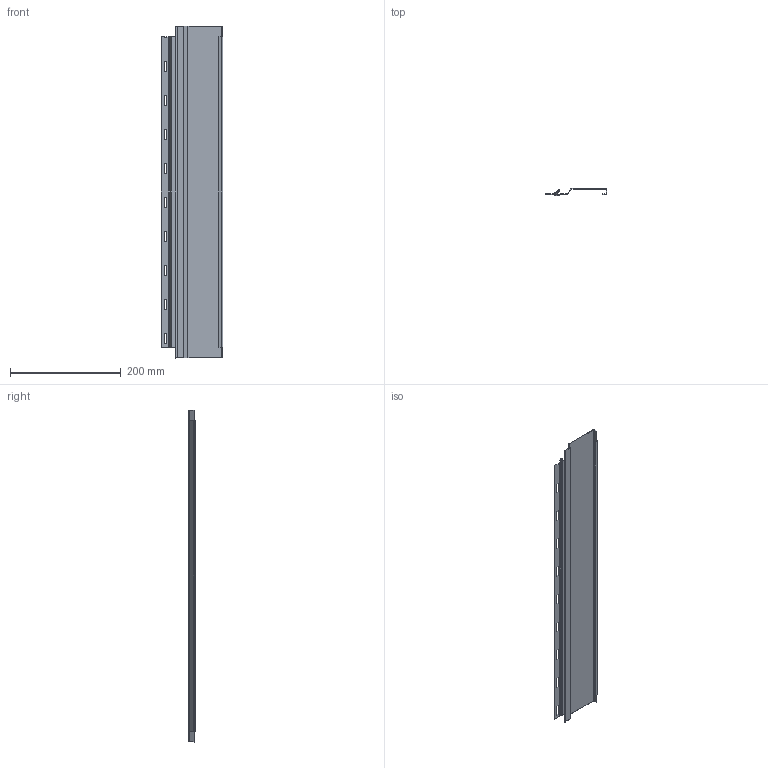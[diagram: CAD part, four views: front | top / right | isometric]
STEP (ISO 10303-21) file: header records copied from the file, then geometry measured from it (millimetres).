
FILE_DESCRIPTION (( 'STEP AP203' ), '1' );
FILE_NAME ('NORWOOD MINI.STEP', '2019-02-25T13:55:01', ( 'Michael Moliner' ), ( '' ), 'SwSTEP 2.0', 'SolidWorks 2018', '' );
FILE_SCHEMA (( 'CONFIG_CONTROL_DESIGN' ));
Length unit declared in the file: inch
Products named in the file (2): NORWOOD MINI
Bounding box: 110.92 x 12.31 x 600 mm (x, y, z)
Volume: 45896.4 mm3; surface area: 181682 mm2
Topology: 1 solids, 1 shells, 90 faces, 264 edges, 176 vertices
Faces by surface type: plane 70, cylinder 20
Entity records: 3165 total; most frequent: CARTESIAN_POINT 532, ORIENTED_EDGE 528, DIRECTION 492, EDGE_CURVE 264, LINE 220, VECTOR 220, VERTEX_POINT 176, AXIS2_PLACEMENT_3D 136
